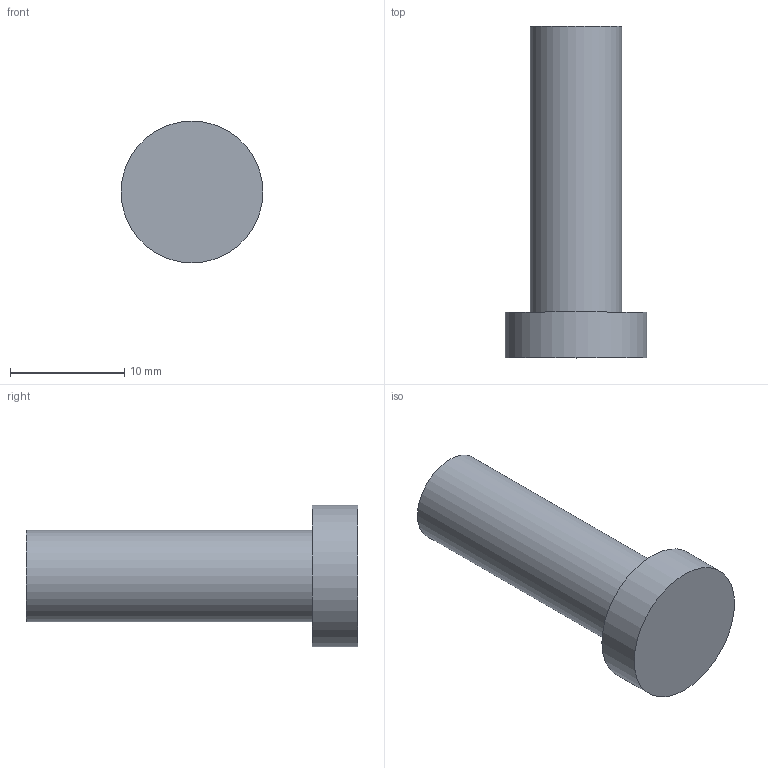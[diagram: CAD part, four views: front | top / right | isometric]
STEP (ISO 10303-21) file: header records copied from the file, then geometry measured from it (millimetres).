
FILE_DESCRIPTION(('Open CASCADE Model'),'2;1');
FILE_NAME('Open CASCADE Shape Model','2026-10-20T13:19:34',('Author'),( 'Open CASCADE'),'Open CASCADE STEP processor 7.9','Open CASCADE 7.9' ,'Unknown');
FILE_SCHEMA(('AUTOMOTIVE_DESIGN { 1 0 10303 214 1 1 1 1 }'));
Length unit declared in the file: millimetre
Products named in the file (1): Open CASCADE STEP translator 7.9 23
Bounding box: 12.4 x 29 x 12.4 mm (x, y, z)
Volume: 1739.7 mm3; surface area: 1025.7 mm2
Topology: 1 solids, 1 shells, 5 faces, 6 edges, 4 vertices
Faces by surface type: plane 3, cylinder 2
Full cylindrical faces by diameter (mm): 8 x1, 12.4 x1
Entity records: 192 total; most frequent: DIRECTION 34, CARTESIAN_POINT 28, ORIENTED_EDGE 12, PCURVE 12, DEFINITIONAL_REPRESENTATION 12, AXIS2_PLACEMENT_3D 10, LINE 10, VECTOR 10
